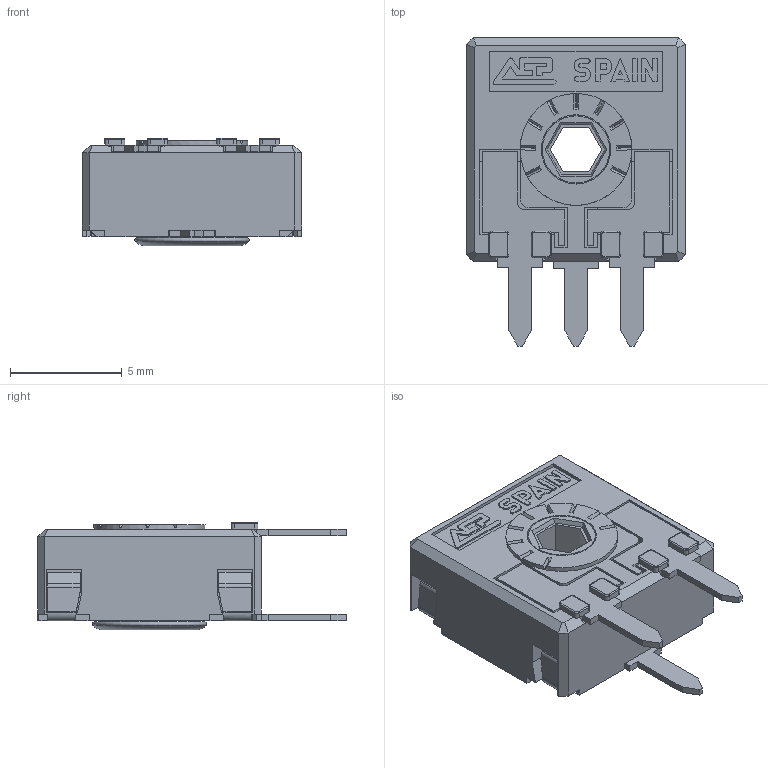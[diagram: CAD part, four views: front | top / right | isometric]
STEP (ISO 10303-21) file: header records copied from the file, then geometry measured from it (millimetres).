
FILE_DESCRIPTION(/* description */ (''),/* implementation_level */ '2;1');
FILE_NAME(/* name */ '\\SERVERACP\intercambio\Ignacio Santa Cecilia\Nueva WEB 2025\CA9 - CE9\CA9MHS3,8.stp',/* time_stamp */ '2025-06-03T15:25:07+02:00',/* author */ ('CEM'),/* organization */ (''),/* preprocessor_version */ 'ST-DEVELOPER v17',/* originating_system */ 'Autodesk Inventor 2018',/* authorisation */ '');
FILE_SCHEMA (('AUTOMOTIVE_DESIGN { 1 0 10303 214 3 1 1 }'));
Length unit declared in the file: millimetre
Products named in the file (1): CA9MHS3,8
Bounding box: 9.8 x 13.8 x 4.8 mm (x, y, z)
Volume: 236.2 mm3; surface area: 799.2 mm2
Topology: 2 solids, 2 shells, 595 faces, 1686 edges, 1079 vertices
Faces by surface type: plane 475, cylinder 79, torus 19, cone 16, bspline 6
Full cylindrical faces by diameter (mm): 3 x1, 3.1 x1, 4 x1, 4.8 x1, 5 x1
Entity records: 19374 total; most frequent: CARTESIAN_POINT 3569, ORIENTED_EDGE 3372, DIRECTION 3100, EDGE_CURVE 1686, LINE 1376, VECTOR 1376, VERTEX_POINT 1079, AXIS2_PLACEMENT_3D 862
